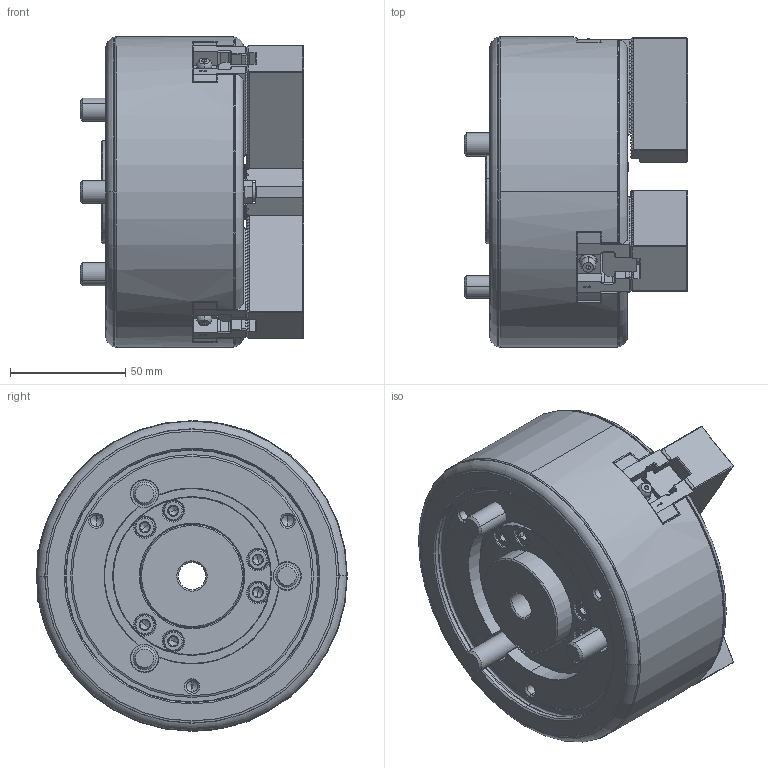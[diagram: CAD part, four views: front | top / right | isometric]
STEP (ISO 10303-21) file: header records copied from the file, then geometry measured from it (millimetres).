
FILE_DESCRIPTION (( 'STEP AP214' ), '1' );
FILE_NAME ('DEV-BR05-OUTSIDE_VIEW_HOL.STEP', '2024-06-05T00:34:10', ( '' ), ( '' ), 'SwSTEP 2.0', 'SolidWorks 2022', '' );
FILE_SCHEMA (( 'AUTOMOTIVE_DESIGN' ));
Length unit declared in the file: millimetre
Products named in the file (9): DEV-BR05-0030110060; DEV-BR05-61P422122; DEV-BR05-0033104006; DEV-BR05-61P422113; Part2^DEV-BR05-61P866277; DEV-BR05-0030108020; DEV-BR05-61P866266; DEV-BR05-61P422119; DEV-BR05-OUTSIDE_VIEW_HOL
Assembly tree (21 placements, depth 2):
  DEV-BR05-OUTSIDE_VIEW_HOL
    DEV-BR05-61P866266
    DEV-BR05-61P422119  x3
    DEV-BR05-61P422113  x3
    DEV-BR05-61P422122
    DEV-BR05-0030110060  x3
    DEV-BR05-0033104006  x3
    DEV-BR05-0030108020  x6
    Part2^DEV-BR05-61P866277
Bounding box: 97 x 135 x 135 mm (x, y, z)
Volume: 827622.9 mm3; surface area: 147759.6 mm2
Topology: 21 solids, 30 shells, 3500 faces, 9746 edges, 6312 vertices
Faces by surface type: plane 2381, cylinder 452, cone 413, bspline 141, torus 100, sphere 13
Entity records: 93734 total; most frequent: CARTESIAN_POINT 24328, ORIENTED_EDGE 15100, DIRECTION 13147, EDGE_CURVE 7550, VECTOR 5345, LINE 5345, VERTEX_POINT 4930, AXIS2_PLACEMENT_3D 3901
